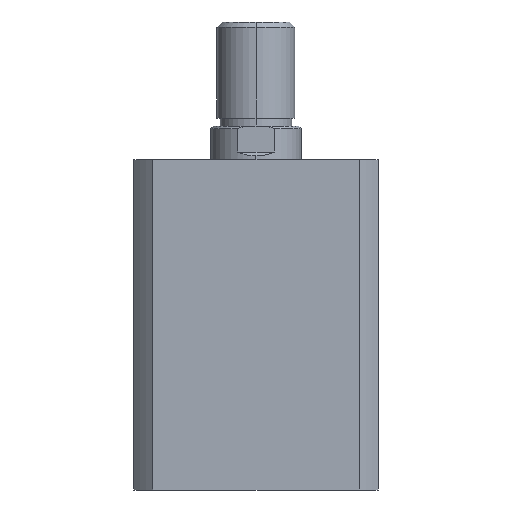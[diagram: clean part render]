
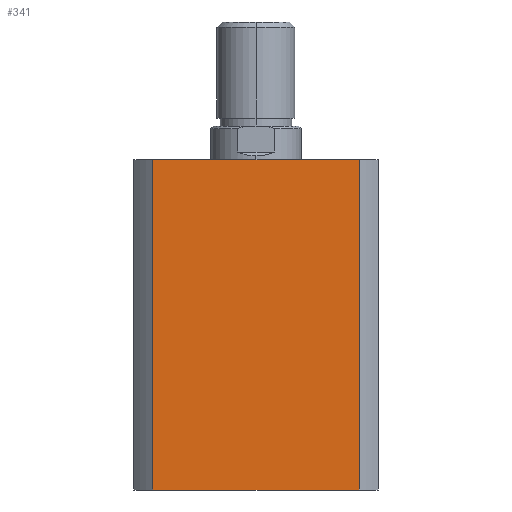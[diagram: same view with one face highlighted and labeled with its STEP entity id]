
A CAD part, left-side view. The second image highlights one B-rep face of the part: STEP entity #341.
In plain terms, the highlighted planar face has unit normal (-1, 0, 0).
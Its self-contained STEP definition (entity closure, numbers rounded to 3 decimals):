
#341 = ADVANCED_FACE ( 'NONE', ( #2987 ), #958, .F. ) ;
#832 = DIRECTION ( 'NONE',  ( 0., -1., 0. ) ) ;
#833 = CARTESIAN_POINT ( 'NONE',  ( -47., -39.664, 127. ) ) ;
#835 = DIRECTION ( 'NONE',  ( 0., 0., -1. ) ) ;
#945 = CARTESIAN_POINT ( 'NONE',  ( -47., -39.664, 0. ) ) ;
#947 = CARTESIAN_POINT ( 'NONE',  ( -47., 39.664, 0. ) ) ;
#952 = CARTESIAN_POINT ( 'NONE',  ( -47., 0., 127. ) ) ;
#958 = PLANE ( 'NONE',  #3355 ) ;
#961 = DIRECTION ( 'NONE',  ( 1., 0., 0. ) ) ;
#962 = DIRECTION ( 'NONE',  ( 0., 0., -1. ) ) ;
#1587 = DIRECTION ( 'NONE',  ( 0., 0., -1. ) ) ;
#1594 = CARTESIAN_POINT ( 'NONE',  ( -47., 39.664, 127. ) ) ;
#1596 = CARTESIAN_POINT ( 'NONE',  ( -47., 0., 0. ) ) ;
#1692 = DIRECTION ( 'NONE',  ( 0., -1., 0. ) ) ;
#1697 = CARTESIAN_POINT ( 'NONE',  ( -47., 0., 127. ) ) ;
#1768 = EDGE_CURVE ( 'NONE', #4470, #4471, #2603, .T. ) ;
#1801 = EDGE_CURVE ( 'NONE', #4470, #2792, #2645, .T. ) ;
#1802 = EDGE_CURVE ( 'NONE', #2792, #2793, #2643, .T. ) ;
#1803 = EDGE_CURVE ( 'NONE', #4471, #2793, #2648, .T. ) ;
#2417 = CARTESIAN_POINT ( 'NONE',  ( -47., -39.664, 127. ) ) ;
#2428 = CARTESIAN_POINT ( 'NONE',  ( -47., 39.664, 127. ) ) ;
#2603 = LINE ( 'NONE', #1697, #2605 ) ;
#2605 = VECTOR ( 'NONE', #1692, 1000. ) ;
#2643 = LINE ( 'NONE', #1596, #2649 ) ;
#2645 = LINE ( 'NONE', #1594, #2647 ) ;
#2647 = VECTOR ( 'NONE', #1587, 1000. ) ;
#2648 = LINE ( 'NONE', #833, #2651 ) ;
#2649 = VECTOR ( 'NONE', #832, 1000. ) ;
#2651 = VECTOR ( 'NONE', #835, 1000. ) ;
#2792 = VERTEX_POINT ( 'NONE', #947 ) ;
#2793 = VERTEX_POINT ( 'NONE', #945 ) ;
#2987 = FACE_OUTER_BOUND ( 'NONE', #3676, .T. ) ;
#3355 = AXIS2_PLACEMENT_3D ( 'NONE', #952, #961, #962 ) ;
#3676 = EDGE_LOOP ( 'NONE', ( #4188, #4189, #4190, #4191 ) ) ;
#4188 = ORIENTED_EDGE ( 'NONE', *, *, #1802, .T. ) ;
#4189 = ORIENTED_EDGE ( 'NONE', *, *, #1803, .F. ) ;
#4190 = ORIENTED_EDGE ( 'NONE', *, *, #1768, .F. ) ;
#4191 = ORIENTED_EDGE ( 'NONE', *, *, #1801, .T. ) ;
#4470 = VERTEX_POINT ( 'NONE', #2428 ) ;
#4471 = VERTEX_POINT ( 'NONE', #2417 ) ;
